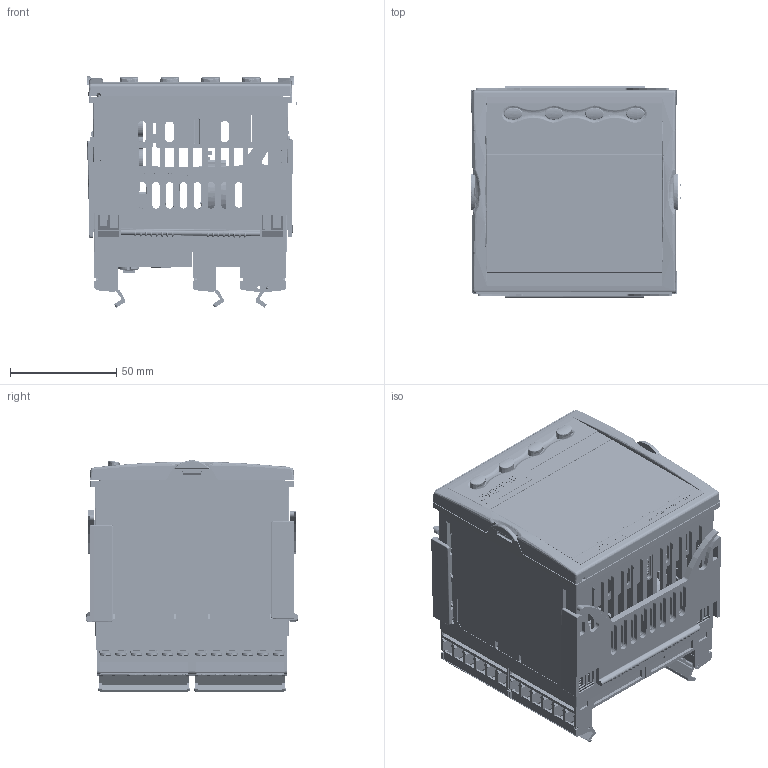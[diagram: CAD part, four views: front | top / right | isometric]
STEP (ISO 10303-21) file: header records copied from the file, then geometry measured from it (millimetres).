
FILE_DESCRIPTION((''),'2;1');
FILE_NAME('NANO_IGES12','2012-01-30T',('chrisloe'),(''),'PRO/ENGINEER BY PARAMETRIC TECHNOLOGY CORPORATION, 2010180','PRO/ENGINEER BY PARAMETRIC TECHNOLOGY CORPORATION, 2010180','');
FILE_SCHEMA(('CONFIG_CONTROL_DESIGN'));
Products named in the file (1): NANO_IGES12
Bounding box: 99.39 x 100.37 x 109.02 mm (x, y, z)
Volume: 238474.3 mm3; surface area: 413614.8 mm2
Topology: 6 solids, 165 shells, 35516 faces, 100034 edges, 65072 vertices
Faces by surface type: plane 29567, cylinder 4677, cone 381, extrusion 306, torus 256, bspline 251, sphere 78
Entity records: 1167024 total; most frequent: CARTESIAN_POINT 252362, ORIENTED_EDGE 199454, DIRECTION 174205, EDGE_CURVE 99927, VECTOR 84489, LINE 84183, VERTEX_POINT 65068, AXIS2_PLACEMENT_3D 44858
